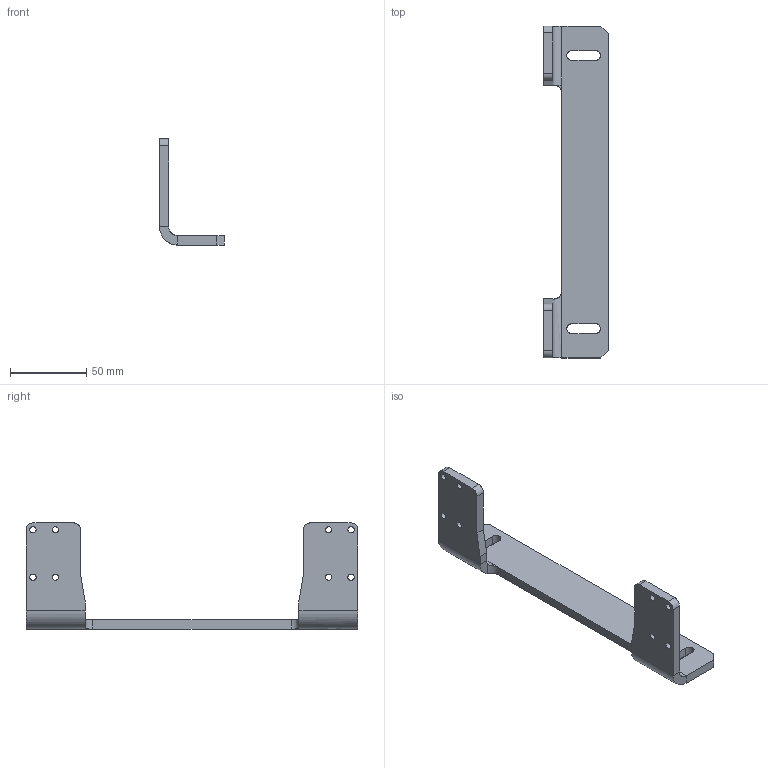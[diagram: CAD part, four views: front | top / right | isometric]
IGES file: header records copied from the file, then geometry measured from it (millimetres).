
Global section: file name: H306085_Halterung_Sensor; native system: Autodesk Inventor 2020; preprocessor: unknown; author: pcre; date: 20191216.072755; units: millimetre
Bounding box: 42.5 x 217.2 x 69.45 mm (x, y, z)
Volume: 68935.1 mm3; surface area: 28770.6 mm2
Topology: 1 solids, 1 shells, 54 faces, 146 edges, 94 vertices
Faces by surface type: bspline 54
